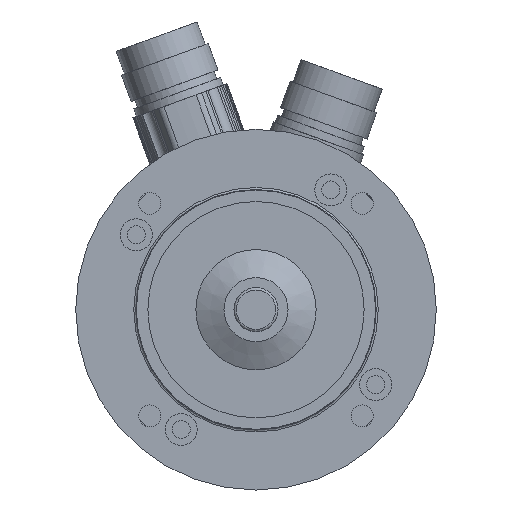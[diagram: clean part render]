
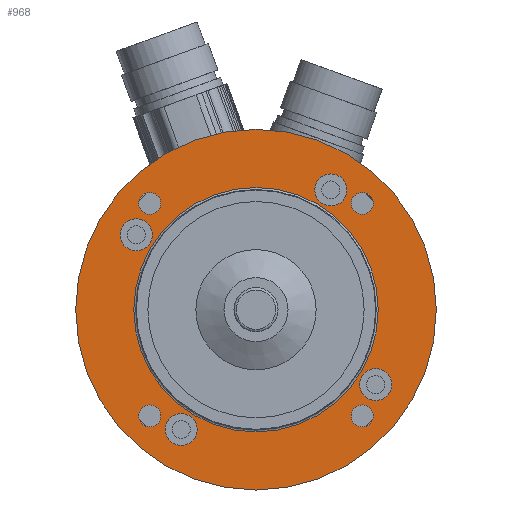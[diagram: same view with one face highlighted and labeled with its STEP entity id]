
A CAD part, front view. The second image highlights one B-rep face of the part: STEP entity #968.
In plain terms, the highlighted planar face has unit normal (0, -1, 0) as drawn and (0, 0, 1) by its records, which use the part's own axes.
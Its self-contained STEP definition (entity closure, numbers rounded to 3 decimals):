
#379=PLANE('',#6065);
#497=FACE_BOUND('',#1839,.T.);
#498=FACE_BOUND('',#1840,.T.);
#499=FACE_BOUND('',#1841,.T.);
#500=FACE_BOUND('',#1842,.T.);
#501=FACE_BOUND('',#1843,.T.);
#502=FACE_BOUND('',#1844,.T.);
#503=FACE_BOUND('',#1845,.T.);
#504=FACE_BOUND('',#1846,.T.);
#505=FACE_BOUND('',#1847,.T.);
#968=ADVANCED_FACE('',(#497,#498,#499,#500,#501,#502,#503,#504,#505,#1570),
#379,.T.);
#1570=FACE_OUTER_BOUND('',#1848,.T.);
#1839=EDGE_LOOP('',(#2945));
#1840=EDGE_LOOP('',(#2946));
#1841=EDGE_LOOP('',(#2947));
#1842=EDGE_LOOP('',(#2948));
#1843=EDGE_LOOP('',(#2949));
#1844=EDGE_LOOP('',(#2950));
#1845=EDGE_LOOP('',(#2951));
#1846=EDGE_LOOP('',(#2952));
#1847=EDGE_LOOP('',(#2953));
#1848=EDGE_LOOP('',(#2954));
#2945=ORIENTED_EDGE('',*,*,#4879,.T.);
#2946=ORIENTED_EDGE('',*,*,#4880,.T.);
#2947=ORIENTED_EDGE('',*,*,#4881,.T.);
#2948=ORIENTED_EDGE('',*,*,#4882,.T.);
#2949=ORIENTED_EDGE('',*,*,#4883,.T.);
#2950=ORIENTED_EDGE('',*,*,#4884,.F.);
#2951=ORIENTED_EDGE('',*,*,#4885,.F.);
#2952=ORIENTED_EDGE('',*,*,#4886,.F.);
#2953=ORIENTED_EDGE('',*,*,#4887,.F.);
#2954=ORIENTED_EDGE('',*,*,#4888,.F.);
#4317=VERTEX_POINT('',#8969);
#4318=VERTEX_POINT('',#8971);
#4319=VERTEX_POINT('',#8973);
#4320=VERTEX_POINT('',#8975);
#4321=VERTEX_POINT('',#8977);
#4322=VERTEX_POINT('',#8979);
#4323=VERTEX_POINT('',#8981);
#4324=VERTEX_POINT('',#8983);
#4325=VERTEX_POINT('',#8985);
#4326=VERTEX_POINT('',#8987);
#4879=EDGE_CURVE('',#4317,#4317,#5559,.T.);
#4880=EDGE_CURVE('',#4318,#4318,#5560,.T.);
#4881=EDGE_CURVE('',#4319,#4319,#5561,.T.);
#4882=EDGE_CURVE('',#4320,#4320,#5562,.T.);
#4883=EDGE_CURVE('',#4321,#4321,#5563,.T.);
#4884=EDGE_CURVE('',#4322,#4322,#5564,.T.);
#4885=EDGE_CURVE('',#4323,#4323,#5565,.T.);
#4886=EDGE_CURVE('',#4324,#4324,#5566,.T.);
#4887=EDGE_CURVE('',#4325,#4325,#5567,.T.);
#4888=EDGE_CURVE('',#4326,#4326,#5568,.T.);
#5559=CIRCLE('',#6055,30.5);
#5560=CIRCLE('',#6056,4.);
#5561=CIRCLE('',#6057,4.);
#5562=CIRCLE('',#6058,4.);
#5563=CIRCLE('',#6059,4.);
#5564=CIRCLE('',#6060,2.75);
#5565=CIRCLE('',#6061,2.75);
#5566=CIRCLE('',#6062,2.75);
#5567=CIRCLE('',#6063,2.75);
#5568=CIRCLE('',#6064,45.);
#6055=AXIS2_PLACEMENT_3D('',#8968,#6976,#6977);
#6056=AXIS2_PLACEMENT_3D('',#8970,#6978,#6979);
#6057=AXIS2_PLACEMENT_3D('',#8972,#6980,#6981);
#6058=AXIS2_PLACEMENT_3D('',#8974,#6982,#6983);
#6059=AXIS2_PLACEMENT_3D('',#8976,#6984,#6985);
#6060=AXIS2_PLACEMENT_3D('',#8978,#6986,#6987);
#6061=AXIS2_PLACEMENT_3D('',#8980,#6988,#6989);
#6062=AXIS2_PLACEMENT_3D('',#8982,#6990,#6991);
#6063=AXIS2_PLACEMENT_3D('',#8984,#6992,#6993);
#6064=AXIS2_PLACEMENT_3D('',#8986,#6994,#6995);
#6065=AXIS2_PLACEMENT_3D('',#8988,#6996,#6997);
#6976=DIRECTION('',(0.,0.,-1.));
#6977=DIRECTION('',(1.,0.,0.));
#6978=DIRECTION('',(0.,0.,-1.));
#6979=DIRECTION('',(0.,-1.,0.));
#6980=DIRECTION('',(0.,0.,-1.));
#6981=DIRECTION('',(1.,0.,0.));
#6982=DIRECTION('',(0.,0.,-1.));
#6983=DIRECTION('',(0.,1.,0.));
#6984=DIRECTION('',(0.,0.,-1.));
#6985=DIRECTION('',(-1.,0.,0.));
#6986=DIRECTION('',(0.,0.,1.));
#6987=DIRECTION('',(1.,0.,0.));
#6988=DIRECTION('',(0.,0.,1.));
#6989=DIRECTION('',(1.,0.,0.));
#6990=DIRECTION('',(0.,0.,1.));
#6991=DIRECTION('',(1.,0.,0.));
#6992=DIRECTION('',(0.,0.,1.));
#6993=DIRECTION('',(1.,0.,0.));
#6994=DIRECTION('',(0.,0.,-1.));
#6995=DIRECTION('',(-1.,0.,0.));
#6996=DIRECTION('',(0.,0.,1.));
#6997=DIRECTION('',(1.,0.,0.));
#8968=CARTESIAN_POINT('',(0.,0.,8.));
#8969=CARTESIAN_POINT('',(30.5,0.,8.));
#8970=CARTESIAN_POINT('',(18.68,29.894,8.));
#8971=CARTESIAN_POINT('',(18.68,25.894,8.));
#8972=CARTESIAN_POINT('',(-29.894,18.68,8.));
#8973=CARTESIAN_POINT('',(-25.894,18.68,8.));
#8974=CARTESIAN_POINT('',(-18.68,-29.894,8.));
#8975=CARTESIAN_POINT('',(-18.68,-25.894,8.));
#8976=CARTESIAN_POINT('',(29.894,-18.68,8.));
#8977=CARTESIAN_POINT('',(25.894,-18.68,8.));
#8978=CARTESIAN_POINT('',(26.517,26.517,8.));
#8979=CARTESIAN_POINT('',(29.267,26.517,8.));
#8980=CARTESIAN_POINT('',(-26.517,26.517,8.));
#8981=CARTESIAN_POINT('',(-23.767,26.517,8.));
#8982=CARTESIAN_POINT('',(-26.517,-26.517,8.));
#8983=CARTESIAN_POINT('',(-23.767,-26.517,8.));
#8984=CARTESIAN_POINT('',(26.517,-26.517,8.));
#8985=CARTESIAN_POINT('',(29.267,-26.517,8.));
#8986=CARTESIAN_POINT('',(0.,0.,8.));
#8987=CARTESIAN_POINT('',(-45.,0.,8.));
#8988=CARTESIAN_POINT('',(0.,0.,8.));
